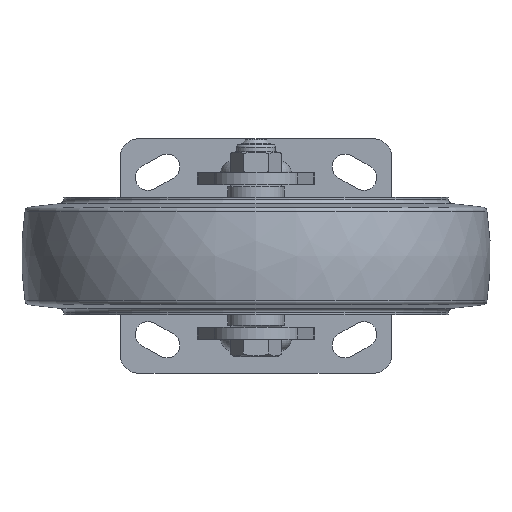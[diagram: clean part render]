
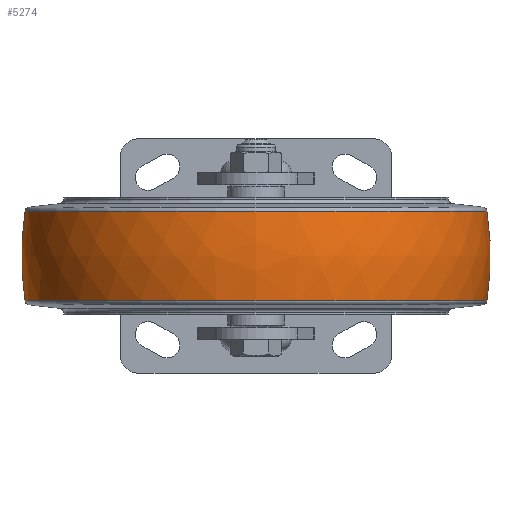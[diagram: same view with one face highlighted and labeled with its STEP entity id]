
A CAD part, front view. The second image highlights one B-rep face of the part: STEP entity #5274.
In plain terms, the highlighted free-form (B-spline) face has degree [3, 3] with [7, 4] control points.
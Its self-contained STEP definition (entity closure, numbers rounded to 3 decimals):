
#3347=CARTESIAN_POINT('',(-19.172,0.,0.));
#3348=DIRECTION('',(-1.,0.,0.));
#3349=DIRECTION('',(0.,1.,0.));
#3350=AXIS2_PLACEMENT_3D('',#3347,#3348,#3349);
#3352=CARTESIAN_POINT('',(0.,-26.741,0.));
#3353=DIRECTION('',(0.,0.,1.));
#3354=DIRECTION('',(0.151,0.988,0.));
#3355=AXIS2_PLACEMENT_3D('',#3352,#3353,#3354);
#3357=CARTESIAN_POINT('',(0.,26.741,0.));
#3358=DIRECTION('',(0.,0.,-1.));
#3359=DIRECTION('',(0.151,-0.988,0.));
#3360=AXIS2_PLACEMENT_3D('',#3357,#3358,#3359);
#3362=CARTESIAN_POINT('',(19.172,0.,0.));
#3363=DIRECTION('',(-1.,0.,0.));
#3364=DIRECTION('',(0.,1.,0.));
#3365=AXIS2_PLACEMENT_3D('',#3362,#3363,#3364);
#4053=CARTESIAN_POINT('',(19.172,98.542,
0.));
#4054=VERTEX_POINT('',#4053);
#4055=CARTESIAN_POINT('',(-19.172,98.542,
0.));
#4056=VERTEX_POINT('',#4055);
#4073=CARTESIAN_POINT('',(19.172,-98.542,
0.));
#4074=VERTEX_POINT('',#4073);
#4075=CARTESIAN_POINT('',(-19.172,-98.542,
0.));
#4076=VERTEX_POINT('',#4075);
#5236=CARTESIAN_POINT('',(-19.933,-98.229,
6.18));
#5237=CARTESIAN_POINT('',(-6.7,-100.332,
6.312));
#5238=CARTESIAN_POINT('',(6.7,-100.332,6.312));
#5239=CARTESIAN_POINT('',(19.933,-98.229,6.18));
#5240=CARTESIAN_POINT('',(-19.933,-102.032,
-54.27));
#5241=CARTESIAN_POINT('',(-6.7,-104.216,
-55.432));
#5242=CARTESIAN_POINT('',(6.7,-104.216,
-55.432));
#5243=CARTESIAN_POINT('',(19.933,-102.032,
-54.27));
#5244=CARTESIAN_POINT('',(-19.933,-60.569,
-98.423));
#5245=CARTESIAN_POINT('',(-6.7,-61.866,
-100.53));
#5246=CARTESIAN_POINT('',(6.7,-61.866,
-100.53));
#5247=CARTESIAN_POINT('',(19.933,-60.569,
-98.423));
#5248=CARTESIAN_POINT('',(-19.933,0.,
-98.423));
#5249=CARTESIAN_POINT('',(-6.7,0.,
-100.53));
#5250=CARTESIAN_POINT('',(6.7,0.,
-100.53));
#5251=CARTESIAN_POINT('',(19.933,0.,
-98.423));
#5252=CARTESIAN_POINT('',(-19.933,60.569,
-98.423));
#5253=CARTESIAN_POINT('',(-6.7,61.866,
-100.53));
#5254=CARTESIAN_POINT('',(6.7,61.866,-100.53));
#5255=CARTESIAN_POINT('',(19.933,60.569,-98.423));
#5256=CARTESIAN_POINT('',(-19.933,102.032,
-54.27));
#5257=CARTESIAN_POINT('',(-6.7,104.216,
-55.432));
#5258=CARTESIAN_POINT('',(6.7,104.216,-55.432));
#5259=CARTESIAN_POINT('',(19.933,102.032,-54.27));
#5260=CARTESIAN_POINT('',(-19.933,98.229,6.18));
#5261=CARTESIAN_POINT('',(-6.7,100.332,6.312));
#5262=CARTESIAN_POINT('',(6.7,100.332,6.312));
#5263=CARTESIAN_POINT('',(19.933,98.229,6.18));
#5264=(BOUNDED_SURFACE()B_SPLINE_SURFACE(3,3,((#5236,#5237,#5238,#5239),(#5240,
#5241,#5242,#5243),(#5244,#5245,#5246,#5247),(#5248,#5249,#5250,#5251),(#5252,
#5253,#5254,#5255),(#5256,#5257,#5258,#5259),(#5260,#5261,#5262,#5263)),
.UNSPECIFIED.,.F.,.F.,.F.)B_SPLINE_SURFACE_WITH_KNOTS((4,3,4),(4,4),(0.,1.,
2.),(0.,1.),.UNSPECIFIED.)GEOMETRIC_REPRESENTATION_ITEM()RATIONAL_B_SPLINE_SURFACE(((1.195,1.185,1.185,1.195),(
0.943,0.936,0.936,0.943),(
0.943,0.936,0.936,0.943),(
1.195,1.185,1.185,1.195),(
0.943,0.936,0.936,0.943),(
0.943,0.936,0.936,0.943),(
1.195,1.185,1.185,1.195)))REPRESENTATION_ITEM('')SURFACE());
#5266=ORIENTED_EDGE('',*,*,#5265,.T.);
#5267=ORIENTED_EDGE('',*,*,#5231,.T.);
#5269=ORIENTED_EDGE('',*,*,#5268,.F.);
#5271=ORIENTED_EDGE('',*,*,#5270,.F.);
#5272=EDGE_LOOP('',(#5266,#5267,#5269,#5271));
#5273=FACE_OUTER_BOUND('',#5272,.F.);
#3351=CIRCLE('',#3350,98.542);
#3356=CIRCLE('',#3355,126.741);
#3361=CIRCLE('',#3360,126.741);
#3366=CIRCLE('',#3365,98.542);
#5231=EDGE_CURVE('',#4056,#4076,#3351,.T.);
#5265=EDGE_CURVE('',#4054,#4056,#3356,.T.);
#5268=EDGE_CURVE('',#4074,#4076,#3361,.T.);
#5270=EDGE_CURVE('',#4054,#4074,#3366,.T.);
#5274=ADVANCED_FACE('',(#5273),#5264,.T.);
